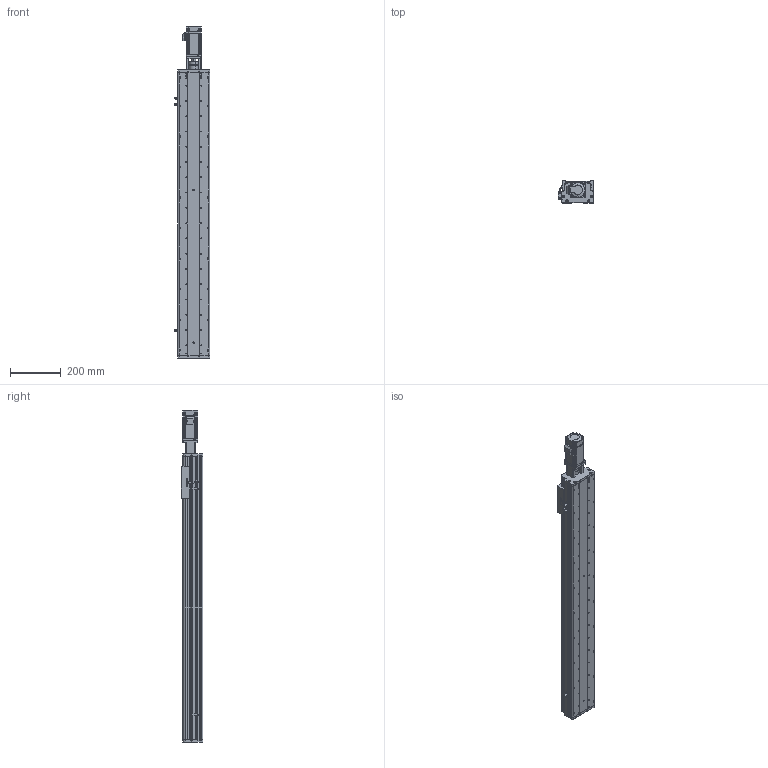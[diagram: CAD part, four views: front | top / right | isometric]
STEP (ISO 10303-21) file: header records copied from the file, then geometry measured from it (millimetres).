
FILE_DESCRIPTION (( 'STEP AP214' ), '1' );
FILE_NAME ('KSD125S-S900-MT-CM.STEP', '2017-08-07T06:49:37', ( '微软用户' ), ( '微软中国' ), 'SwSTEP 2.0', 'SolidWorks 2014', '' );
FILE_SCHEMA (( 'AUTOMOTIVE_DESIGN' ));
Length unit declared in the file: millimetre
Products named in the file (13): ヶ傷啣-125遵耀郪; CS-34X32-10X14; KSD125S-900俴最佪裝滅鳥裔; 125-帣傷啣1; KSD125S-S900-MT-CM; KSD125S-900俴最佪裝菁啣; KSD125-賑雄釱1; MHMD042G1CA_2_03; 100遵鎮湛假蚾啣1 ; 拸萇儂釱滅袉菜; 覜茼え68遵圉猾敕; U倰嫖萇假蚾璃; U倰嫖萇EEㄜSX672
Assembly tree (16 placements, depth 2):
  KSD125S-S900-MT-CM
    125-帣傷啣1
    CS-34X32-10X14
    ヶ傷啣-125遵耀郪
    U倰嫖萇EEㄜSX672  x3
    U倰嫖萇假蚾璃  x3
    覜茼え68遵圉猾敕
    拸萇儂釱滅袉菜
    100遵鎮湛假蚾啣1 
    MHMD042G1CA_2_03
    KSD125-賑雄釱1
    KSD125S-900俴最佪裝菁啣
    KSD125S-900俴最佪裝滅鳥裔
Bounding box: 138.7 x 86 x 1303.5 mm (x, y, z)
Volume: 3636416.8 mm3; surface area: 1196036.5 mm2
Topology: 15 solids, 18 shells, 1586 faces, 4580 edges, 3015 vertices
Faces by surface type: cylinder 826, plane 647, cone 91, bspline 22
Entity records: 56197 total; most frequent: CARTESIAN_POINT 11772, DIRECTION 8078, ORIENTED_EDGE 7668, EDGE_CURVE 3912, AXIS2_PLACEMENT_3D 2999, VERTEX_POINT 2607, LINE 2080, VECTOR 2080
